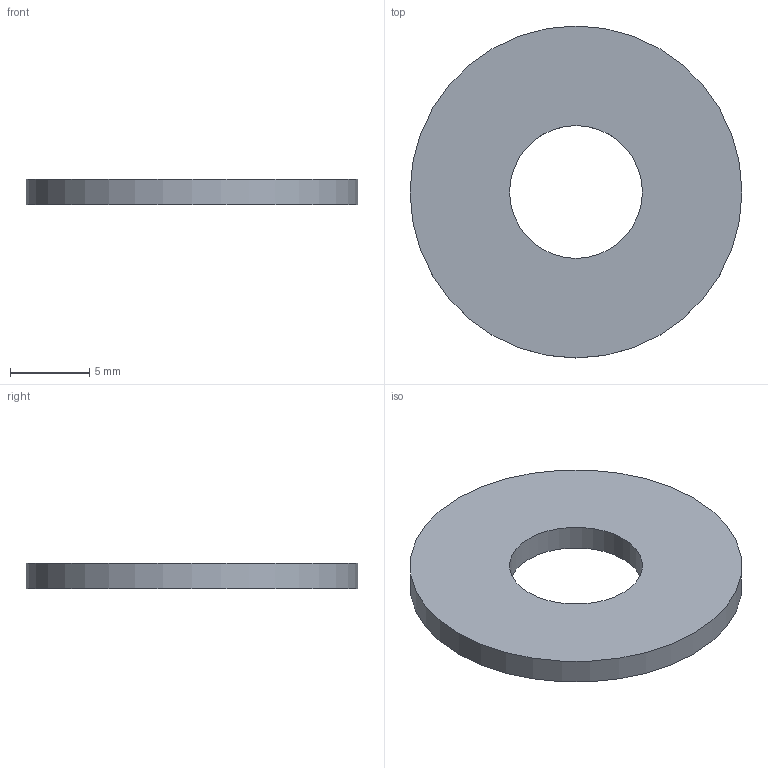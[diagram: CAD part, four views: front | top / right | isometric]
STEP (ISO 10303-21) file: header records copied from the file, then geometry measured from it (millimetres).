
FILE_DESCRIPTION(/* description */ (''),/* implementation_level */ '2;1');
FILE_NAME(/* name */ 'M8 Panel-Slot Washer - A2 Stainless Steel.step',/* time_stamp */ '2024-07-02T16:17:39+03:00',/* author */ (''),/* organization */ (''),/* preprocessor_version */ 'ST-DEVELOPER v20',/* originating_system */ 'Autodesk Translation Framework v13.14.0.145',/* authorisation */ '');
FILE_SCHEMA (('AUTOMOTIVE_DESIGN { 1 0 10303 214 3 1 1 }'));
Length unit declared in the file: millimetre
Products named in the file (1): M8 Panel/Slot Washer - A2 Stainless Steel
Bounding box: 21 x 21 x 1.6 mm (x, y, z)
Volume: 465.5 mm3; surface area: 729.7 mm2
Topology: 1 solids, 1 shells, 4 faces, 6 edges, 4 vertices
Faces by surface type: cylinder 2, plane 2
Full cylindrical faces by diameter (mm): 8.4 x1, 21 x1
Entity records: 131 total; most frequent: DIRECTION 20, CARTESIAN_POINT 15, ORIENTED_EDGE 12, AXIS2_PLACEMENT_3D 9, EDGE_LOOP 6, EDGE_CURVE 6, FACE_OUTER_BOUND 4, CIRCLE 4
